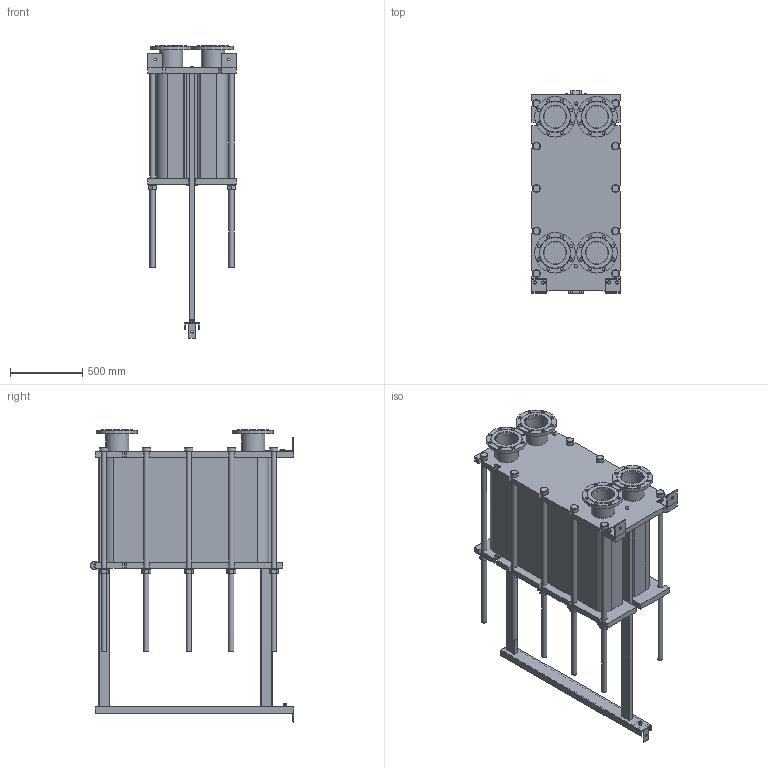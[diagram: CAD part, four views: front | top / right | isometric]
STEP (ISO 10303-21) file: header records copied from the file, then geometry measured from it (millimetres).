
FILE_DESCRIPTION(/* description */ (''),/* implementation_level */ '2;1');
FILE_NAME(/* name */ 'C:\Users\zhuro\Desktop\ENCO\TO\ЭН-041\ЭН-0,5-041-211-1.stp',/* time_stamp */ '2022-06-06T11:06:54+03:00',/* author */ ('zhuro'),/* organization */ (''),/* preprocessor_version */ 'ST-DEVELOPER v18.1',/* originating_system */ 'Autodesk Inventor 2022',/* authorisation */ '');
FILE_SCHEMA (('AUTOMOTIVE_DESIGN { 1 0 10303 214 3 1 1 }'));
Length unit declared in the file: millimetre
Products named in the file (1): ЭН-0,5-041-211-1
Bounding box: 610 x 1406.5 x 2022.5 mm (x, y, z)
Volume: 497699623 mm3; surface area: 11471970.1 mm2
Topology: 52 solids, 52 shells, 711 faces, 1696 edges, 1094 vertices
Faces by surface type: plane 487, cylinder 177, cone 41, torus 6
Full cylindrical faces by diameter (mm): 8 x4, 10 x2, 16 x8, 18 x3, 22 x32, 36 x24, 50 x1, 54 x10, 60 x12, 151 x4, 161 x8, 280 x4
Entity records: 22667 total; most frequent: CARTESIAN_POINT 5230, DIRECTION 3644, ORIENTED_EDGE 3392, EDGE_CURVE 1696, AXIS2_PLACEMENT_3D 1272, LINE 1100, VECTOR 1100, VERTEX_POINT 1094
